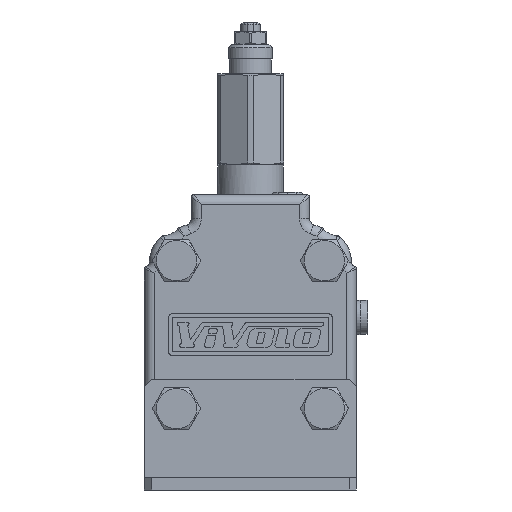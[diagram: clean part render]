
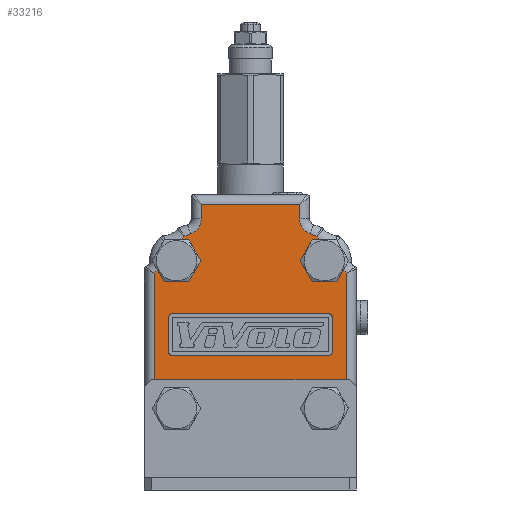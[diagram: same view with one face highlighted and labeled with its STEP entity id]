
A CAD part, front view. The second image highlights one B-rep face of the part: STEP entity #33216.
In plain terms, the highlighted planar face has unit normal (0, -1, 0).
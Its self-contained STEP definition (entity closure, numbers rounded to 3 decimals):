
#1362=CIRCLE('',#34815,1.53);
#1363=CIRCLE('',#34818,1.53);
#1364=CIRCLE('',#34821,1.53);
#1365=CIRCLE('',#34824,1.53);
#1366=CIRCLE('',#34827,8.);
#1369=CIRCLE('',#34831,8.);
#1383=CIRCLE('',#34868,6.002);
#1384=CIRCLE('',#34869,6.002);
#1385=CIRCLE('',#34870,12.);
#1386=CIRCLE('',#34871,6.5);
#1387=CIRCLE('',#34872,6.5);
#1388=CIRCLE('',#34873,12.);
#4231=ORIENTED_EDGE('',*,*,#10375,.T.);
#4232=ORIENTED_EDGE('',*,*,#10421,.T.);
#4233=ORIENTED_EDGE('',*,*,#10422,.T.);
#4234=ORIENTED_EDGE('',*,*,#10382,.T.);
#4235=ORIENTED_EDGE('',*,*,#10423,.T.);
#4236=ORIENTED_EDGE('',*,*,#10424,.T.);
#4237=ORIENTED_EDGE('',*,*,#10372,.T.);
#4238=ORIENTED_EDGE('',*,*,#10425,.T.);
#4239=ORIENTED_EDGE('',*,*,#10426,.T.);
#4240=ORIENTED_EDGE('',*,*,#10427,.T.);
#4241=ORIENTED_EDGE('',*,*,#10428,.T.);
#4242=ORIENTED_EDGE('',*,*,#10429,.T.);
#4243=ORIENTED_EDGE('',*,*,#10430,.T.);
#4244=ORIENTED_EDGE('',*,*,#10431,.T.);
#4245=ORIENTED_EDGE('',*,*,#10432,.T.);
#4246=ORIENTED_EDGE('',*,*,#10433,.T.);
#4247=ORIENTED_EDGE('',*,*,#10371,.F.);
#4248=ORIENTED_EDGE('',*,*,#10369,.F.);
#4249=ORIENTED_EDGE('',*,*,#10367,.F.);
#4250=ORIENTED_EDGE('',*,*,#10365,.F.);
#4251=ORIENTED_EDGE('',*,*,#10363,.F.);
#4252=ORIENTED_EDGE('',*,*,#10361,.F.);
#4253=ORIENTED_EDGE('',*,*,#10359,.F.);
#4254=ORIENTED_EDGE('',*,*,#10356,.F.);
#10356=EDGE_CURVE('',#13610,#13611,#1362,.T.);
#10359=EDGE_CURVE('',#13611,#13612,#15892,.T.);
#10361=EDGE_CURVE('',#13612,#13613,#1363,.T.);
#10363=EDGE_CURVE('',#13613,#13614,#15895,.T.);
#10365=EDGE_CURVE('',#13614,#13615,#1364,.T.);
#10367=EDGE_CURVE('',#13615,#13616,#15898,.T.);
#10369=EDGE_CURVE('',#13616,#13617,#1365,.T.);
#10371=EDGE_CURVE('',#13617,#13610,#15901,.T.);
#10372=EDGE_CURVE('',#13618,#13619,#1366,.T.);
#10375=EDGE_CURVE('',#13621,#13620,#1369,.T.);
#10382=EDGE_CURVE('',#13625,#13626,#15908,.T.);
#10421=EDGE_CURVE('',#13620,#13654,#1383,.F.);
#10422=EDGE_CURVE('',#13654,#13625,#15934,.T.);
#10423=EDGE_CURVE('',#13626,#13655,#15935,.T.);
#10424=EDGE_CURVE('',#13655,#13618,#1384,.F.);
#10425=EDGE_CURVE('',#13619,#13656,#1385,.F.);
#10426=EDGE_CURVE('',#13656,#13657,#15936,.T.);
#10427=EDGE_CURVE('',#13657,#13658,#1386,.F.);
#10428=EDGE_CURVE('',#13658,#13659,#15937,.T.);
#10429=EDGE_CURVE('',#13659,#13660,#15938,.T.);
#10430=EDGE_CURVE('',#13660,#13661,#15939,.T.);
#10431=EDGE_CURVE('',#13661,#13662,#1387,.F.);
#10432=EDGE_CURVE('',#13662,#13663,#15940,.T.);
#10433=EDGE_CURVE('',#13663,#13621,#1388,.F.);
#13610=VERTEX_POINT('',#48704);
#13611=VERTEX_POINT('',#48705);
#13612=VERTEX_POINT('',#48710);
#13613=VERTEX_POINT('',#48714);
#13614=VERTEX_POINT('',#48718);
#13615=VERTEX_POINT('',#48722);
#13616=VERTEX_POINT('',#48726);
#13617=VERTEX_POINT('',#48730);
#13618=VERTEX_POINT('',#48736);
#13619=VERTEX_POINT('',#48737);
#13620=VERTEX_POINT('',#48741);
#13621=VERTEX_POINT('',#48742);
#13625=VERTEX_POINT('',#48753);
#13626=VERTEX_POINT('',#48756);
#13654=VERTEX_POINT('',#48845);
#13655=VERTEX_POINT('',#48848);
#13656=VERTEX_POINT('',#48851);
#13657=VERTEX_POINT('',#48853);
#13658=VERTEX_POINT('',#48855);
#13659=VERTEX_POINT('',#48857);
#13660=VERTEX_POINT('',#48859);
#13661=VERTEX_POINT('',#48861);
#13662=VERTEX_POINT('',#48863);
#13663=VERTEX_POINT('',#48865);
#15892=LINE('',#48709,#17796);
#15895=LINE('',#48717,#17799);
#15898=LINE('',#48725,#17802);
#15901=LINE('',#48733,#17805);
#15908=LINE('',#48757,#17812);
#15934=LINE('',#48846,#17838);
#15935=LINE('',#48847,#17839);
#15936=LINE('',#48852,#17840);
#15937=LINE('',#48856,#17841);
#15938=LINE('',#48858,#17842);
#15939=LINE('',#48860,#17843);
#15940=LINE('',#48864,#17844);
#17796=VECTOR('',#38595,1000.);
#17799=VECTOR('',#38604,1000.);
#17802=VECTOR('',#38613,1000.);
#17805=VECTOR('',#38622,1000.);
#17812=VECTOR('',#38645,1000.);
#17838=VECTOR('',#38741,1000.);
#17839=VECTOR('',#38742,1000.);
#17840=VECTOR('',#38747,1000.);
#17841=VECTOR('',#38750,1000.);
#17842=VECTOR('',#38751,1000.);
#17843=VECTOR('',#38752,1000.);
#17844=VECTOR('',#38755,1000.);
#19619=EDGE_LOOP('',(#4231,#4232,#4233,#4234,#4235,#4236,#4237,#4238,#4239,
#4240,#4241,#4242,#4243,#4244,#4245,#4246));
#19620=EDGE_LOOP('',(#4247,#4248,#4249,#4250,#4251,#4252,#4253,#4254));
#21234=FACE_BOUND('',#19619,.T.);
#21235=FACE_BOUND('',#19620,.T.);
#22644=PLANE('',#34867);
#33216=ADVANCED_FACE('',(#21234,#21235),#22644,.T.);
#34815=AXIS2_PLACEMENT_3D('',#48703,#38589,#38590);
#34818=AXIS2_PLACEMENT_3D('',#48713,#38599,#38600);
#34821=AXIS2_PLACEMENT_3D('',#48721,#38608,#38609);
#34824=AXIS2_PLACEMENT_3D('',#48729,#38617,#38618);
#34827=AXIS2_PLACEMENT_3D('',#48735,#38625,#38626);
#34831=AXIS2_PLACEMENT_3D('',#48743,#38633,#38634);
#34867=AXIS2_PLACEMENT_3D('',#48843,#38737,#38738);
#34868=AXIS2_PLACEMENT_3D('',#48844,#38739,#38740);
#34869=AXIS2_PLACEMENT_3D('',#48849,#38743,#38744);
#34870=AXIS2_PLACEMENT_3D('',#48850,#38745,#38746);
#34871=AXIS2_PLACEMENT_3D('',#48854,#38748,#38749);
#34872=AXIS2_PLACEMENT_3D('',#48862,#38753,#38754);
#34873=AXIS2_PLACEMENT_3D('',#48866,#38756,#38757);
#38589=DIRECTION('',(0.,-1.,0.));
#38590=DIRECTION('',(1.,0.,0.));
#38595=DIRECTION('',(-1.,0.,0.));
#38599=DIRECTION('',(0.,-1.,0.));
#38600=DIRECTION('',(1.,0.,0.));
#38604=DIRECTION('',(0.,0.,-1.));
#38608=DIRECTION('',(0.,-1.,0.));
#38609=DIRECTION('',(1.,0.,0.));
#38613=DIRECTION('',(1.,0.,0.));
#38617=DIRECTION('',(0.,-1.,0.));
#38618=DIRECTION('',(-1.,0.,0.));
#38622=DIRECTION('',(0.,0.,1.));
#38625=DIRECTION('',(0.,1.,0.));
#38626=DIRECTION('',(1.,0.,0.));
#38633=DIRECTION('',(0.,1.,0.));
#38634=DIRECTION('',(1.,0.,0.));
#38645=DIRECTION('',(1.,0.,0.));
#38737=DIRECTION('',(0.,-1.,0.));
#38738=DIRECTION('',(0.,0.,1.));
#38739=DIRECTION('',(0.,-1.,0.));
#38740=DIRECTION('',(0.,0.,1.));
#38741=DIRECTION('',(0.,0.,-1.));
#38742=DIRECTION('',(0.,0.,1.));
#38743=DIRECTION('',(0.,-1.,0.));
#38744=DIRECTION('',(0.,0.,1.));
#38745=DIRECTION('',(0.,-1.,0.));
#38746=DIRECTION('',(0.,0.,1.));
#38747=DIRECTION('',(-0.94,0.,0.342));
#38748=DIRECTION('',(0.,-1.,0.));
#38749=DIRECTION('',(0.,0.,1.));
#38750=DIRECTION('',(0.,0.,1.));
#38751=DIRECTION('',(-1.,0.,0.));
#38752=DIRECTION('',(0.,0.,-1.));
#38753=DIRECTION('',(0.,-1.,0.));
#38754=DIRECTION('',(0.,0.,1.));
#38755=DIRECTION('',(-0.94,0.,-0.342));
#38756=DIRECTION('',(0.,-1.,0.));
#38757=DIRECTION('',(0.,0.,1.));
#48703=CARTESIAN_POINT('',(31.655,-44.,6.934));
#48704=CARTESIAN_POINT('',(33.185,-44.,6.934));
#48705=CARTESIAN_POINT('',(31.655,-44.,8.464));
#48709=CARTESIAN_POINT('',(31.655,-44.,8.464));
#48710=CARTESIAN_POINT('',(-31.655,-44.,8.464));
#48713=CARTESIAN_POINT('',(-31.655,-44.,6.934));
#48714=CARTESIAN_POINT('',(-33.185,-44.,6.934));
#48717=CARTESIAN_POINT('',(-33.185,-44.,6.934));
#48718=CARTESIAN_POINT('',(-33.185,-44.,-6.934));
#48721=CARTESIAN_POINT('',(-31.655,-44.,-6.934));
#48722=CARTESIAN_POINT('',(-31.655,-44.,-8.464));
#48725=CARTESIAN_POINT('',(-31.655,-44.,-8.464));
#48726=CARTESIAN_POINT('',(31.655,-44.,-8.464));
#48729=CARTESIAN_POINT('',(31.655,-44.,-6.934));
#48730=CARTESIAN_POINT('',(33.185,-44.,-6.934));
#48733=CARTESIAN_POINT('',(33.185,-44.,-6.934));
#48735=CARTESIAN_POINT('',(30.,-44.,30.));
#48736=CARTESIAN_POINT('',(37.476,-44.,27.152));
#48737=CARTESIAN_POINT('',(29.316,-44.,37.971));
#48741=CARTESIAN_POINT('',(-37.476,-44.,27.152));
#48742=CARTESIAN_POINT('',(-29.316,-44.,37.971));
#48743=CARTESIAN_POINT('',(-30.,-44.,30.));
#48753=CARTESIAN_POINT('',(-39.,-44.,-18.));
#48756=CARTESIAN_POINT('',(39.,-44.,-18.));
#48757=CARTESIAN_POINT('',(-40.,-44.,-18.));
#48843=CARTESIAN_POINT('',(23.,-44.,-55.85));
#48844=CARTESIAN_POINT('',(-43.,-44.,29.5));
#48845=CARTESIAN_POINT('',(-39.,-44.,25.025));
#48846=CARTESIAN_POINT('',(-39.,-44.,-26.669));
#48847=CARTESIAN_POINT('',(39.,-44.,26.669));
#48848=CARTESIAN_POINT('',(39.,-44.,25.025));
#48849=CARTESIAN_POINT('',(43.,-44.,29.5));
#48850=CARTESIAN_POINT('',(35.75,-44.,48.1));
#48851=CARTESIAN_POINT('',(27.008,-44.,39.88));
#48852=CARTESIAN_POINT('',(24.275,-44.,40.875));
#48853=CARTESIAN_POINT('',(24.275,-44.,40.875));
#48854=CARTESIAN_POINT('',(26.5,-44.,46.983));
#48855=CARTESIAN_POINT('',(20.,-44.,46.983));
#48856=CARTESIAN_POINT('',(20.,-44.,55.85));
#48857=CARTESIAN_POINT('',(20.,-44.,52.85));
#48858=CARTESIAN_POINT('',(-23.,-44.,52.85));
#48859=CARTESIAN_POINT('',(-20.,-44.,52.85));
#48860=CARTESIAN_POINT('',(-20.,-44.,46.983));
#48861=CARTESIAN_POINT('',(-20.,-44.,46.983));
#48862=CARTESIAN_POINT('',(-26.5,-44.,46.983));
#48863=CARTESIAN_POINT('',(-24.275,-44.,40.875));
#48864=CARTESIAN_POINT('',(-27.476,-44.,39.709));
#48865=CARTESIAN_POINT('',(-27.008,-44.,39.88));
#48866=CARTESIAN_POINT('',(-35.75,-44.,48.1));
